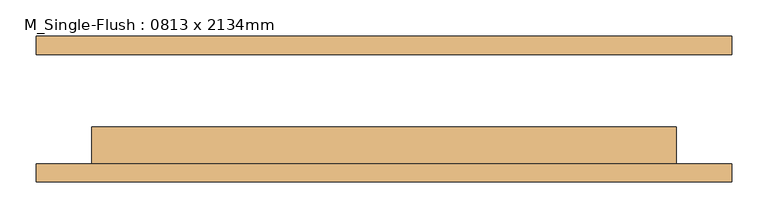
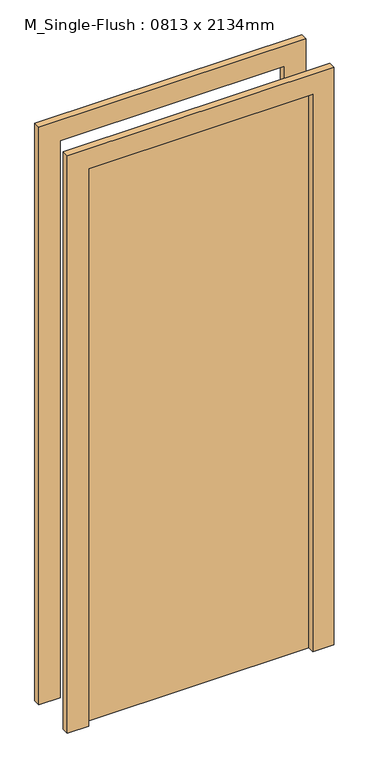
"""IFC4 building model written with IfcOpenShell, lengths in millimetres: door geometry, M_Single-Flush : 0813 x 2134mm."""

from ifc_helpers import new_model, si_unit, frame, origin, origin_with_axes, place, context, project, spatial, polyline, outline, extrude, source, transform, mapped, element, save


def m_single_flush_0813_x_2134mm_1bf23ccc(model_context):
    return source(origin(), model_context, "Body", "SweptSolid", [
        extrude(outline(polyline([(2176.0, -476.05), (0.0, -476.05), (0.0, -400.05), (2100.0, -400.05), (2100.0, 400.05), (0.0, 400.05), (0.0, 476.05), (2176.0, 476.05), (2176.0, -476.05)])), frame((0.0, -100.0, 0.0), z_axis=(0.0, 1.0, 0.0), x_axis=(0.0, 0.0, 1.0)), (0.0, 0.0, 1.0), 25.0),
        extrude(outline(polyline([(2176.0, 476.05), (2176.0, -476.05), (0.0, -476.05), (0.0, -400.05), (2100.0, -400.05), (2100.0, 400.05), (0.0, 400.05), (0.0, 476.05), (2176.0, 476.05)])), frame((0.0, 75.0, 0.0), z_axis=(0.0, 1.0, 0.0), x_axis=(0.0, 0.0, 1.0)), (0.0, 0.0, 1.0), 25.0),
        extrude(outline(polyline([(400.05, -24.0), (400.05, -75.0), (-400.05, -75.0), (-400.05, -24.0), (400.05, -24.0)])), origin_with_axes(), (0.0, 0.0, 1.0), 2100.0),
    ])


if __name__ == "__main__":
    model = new_model("IFC4")
    model_context = context("Model", 3, world=origin())
    ifc_project = project(units=[si_unit("LENGTHUNIT", "METRE", prefix="MILLI")], contexts=[model_context])
    site = spatial("IfcSite", under=ifc_project)
    building = spatial("IfcBuilding", under=site)
    placement = place(None, origin())
    m_single_flush_0813_x_2134mm_shape = m_single_flush_0813_x_2134mm_1bf23ccc(model_context)
    element("IfcDoor", 1, ObjectType="M_Single-Flush : 0813 x 2134mm", at=placement, inside=building, context=model_context, shape_type="MappedRepresentation", body=[
        mapped(m_single_flush_0813_x_2134mm_shape, transform((0.0, 0.0, 0.0), x_axis=(1.0, 0.0, 0.0), y_axis=(0.0, 1.0, 0.0), z_axis=(0.0, 0.0, 1.0))),
    ])
    save(model, "model.ifc")
